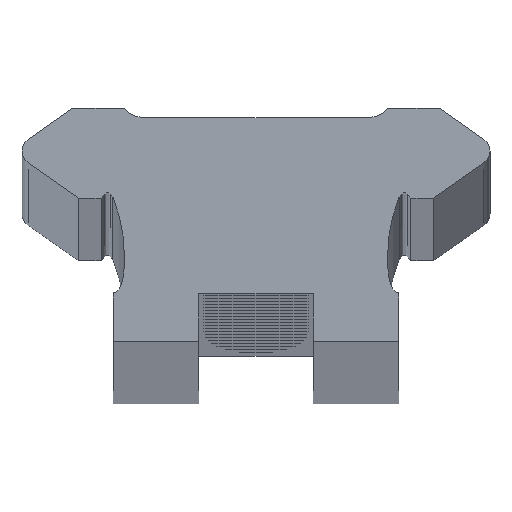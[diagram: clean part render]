
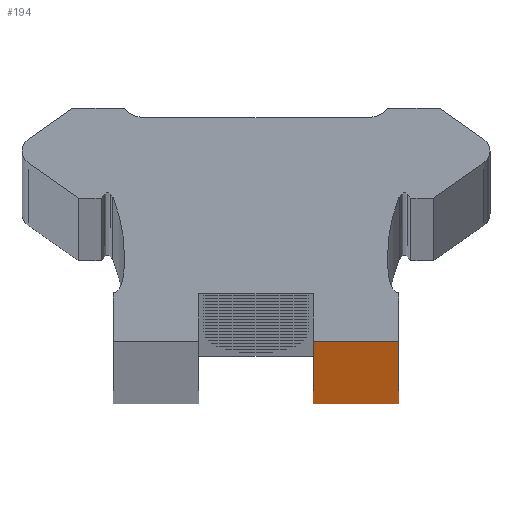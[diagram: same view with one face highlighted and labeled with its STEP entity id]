
A CAD part, top view. The second image highlights one B-rep face of the part: STEP entity #194.
In plain terms, the highlighted planar face has unit normal (0, -1, 0).
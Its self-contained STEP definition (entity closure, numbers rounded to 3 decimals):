
#194=ADVANCED_FACE('',(#482),#483,.T.);
#482=FACE_OUTER_BOUND('',#839,.T.);
#483=PLANE('',#840);
#839=EDGE_LOOP('',(#1770,#1771,#1772,#1773));
#840=AXIS2_PLACEMENT_3D('',#1774,#1775,#1776);
#1770=ORIENTED_EDGE('',*,*,#2420,.T.);
#1771=ORIENTED_EDGE('',*,*,#2421,.F.);
#1772=ORIENTED_EDGE('',*,*,#2422,.T.);
#1773=ORIENTED_EDGE('',*,*,#2418,.T.);
#1774=CARTESIAN_POINT('',(5.25,0.0,0.0));
#1775=DIRECTION('',(0.0,-1.0,0.0));
#1776=DIRECTION('',(1.0,0.0,0.0));
#2418=EDGE_CURVE('',#2993,#2991,#2994,.T.);
#2420=EDGE_CURVE('',#2991,#2996,#2997,.T.);
#2421=EDGE_CURVE('',#2998,#2996,#2999,.T.);
#2422=EDGE_CURVE('',#2998,#2993,#3000,.T.);
#2991=VERTEX_POINT('',#3718);
#2993=VERTEX_POINT('',#3721);
#2994=LINE('',#3722,#3723);
#2996=VERTEX_POINT('',#3726);
#2997=LINE('',#3727,#3728);
#2998=VERTEX_POINT('',#3729);
#2999=LINE('',#3730,#3731);
#3000=LINE('',#3732,#3733);
#3718=CARTESIAN_POINT('',(7.5,0.0,1886.0));
#3721=CARTESIAN_POINT('',(7.5,0.0,0.0));
#3722=CARTESIAN_POINT('',(7.5,0.0,0.0));
#3723=VECTOR('',#4570,1.0);
#3726=CARTESIAN_POINT('',(3.0,0.0,1886.0));
#3727=CARTESIAN_POINT('',(3.0,0.0,1886.0));
#3728=VECTOR('',#4572,1.0);
#3729=CARTESIAN_POINT('',(3.0,0.0,0.0));
#3730=CARTESIAN_POINT('',(3.0,0.0,0.0));
#3731=VECTOR('',#4573,1.0);
#3732=CARTESIAN_POINT('',(3.0,0.0,0.0));
#3733=VECTOR('',#4574,1.0);
#4570=DIRECTION('',(0.0,0.0,1.0));
#4572=DIRECTION('',(-1.0,-0.0,-0.0));
#4573=DIRECTION('',(0.0,0.0,1.0));
#4574=DIRECTION('',(1.0,0.0,0.0));
